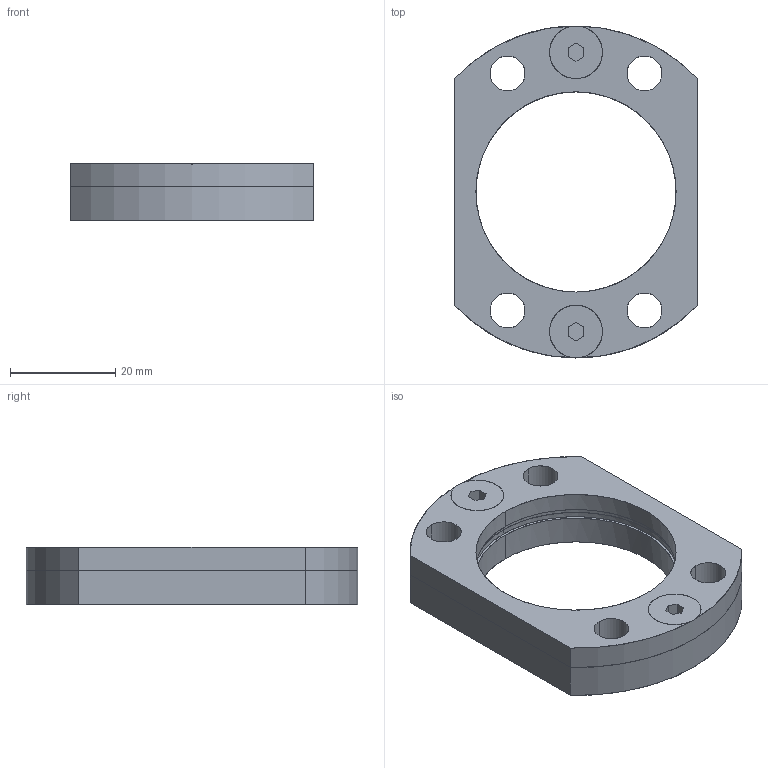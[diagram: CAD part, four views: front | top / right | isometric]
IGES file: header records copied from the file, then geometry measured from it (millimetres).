
Global section: file name: E:\UnigraphicsGraphicData\MISUMI_PRESS-PARTS\IGES\3d_fm-38_03757_r00.igs; native system: NX V5.0; preprocessor: UGS NX IGES V5.0; author: MISUMI; date: 20110105.160644; units: millimetre
Bounding box: 46 x 63 x 11 mm (x, y, z)
Surface area: 10516.8 mm2 (no closed solid volume)
Topology: 0 solids, 0 shells, 80 faces, 688 edges, 687 vertices
Faces by surface type: bspline 80
